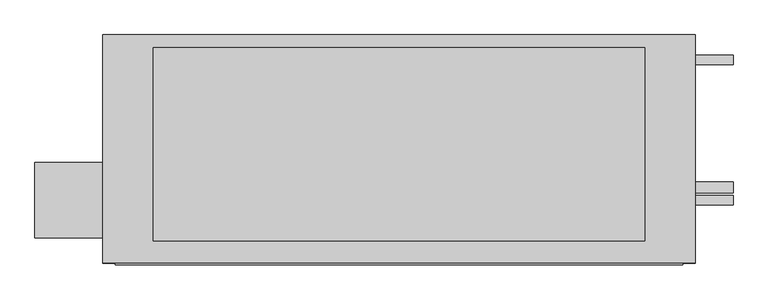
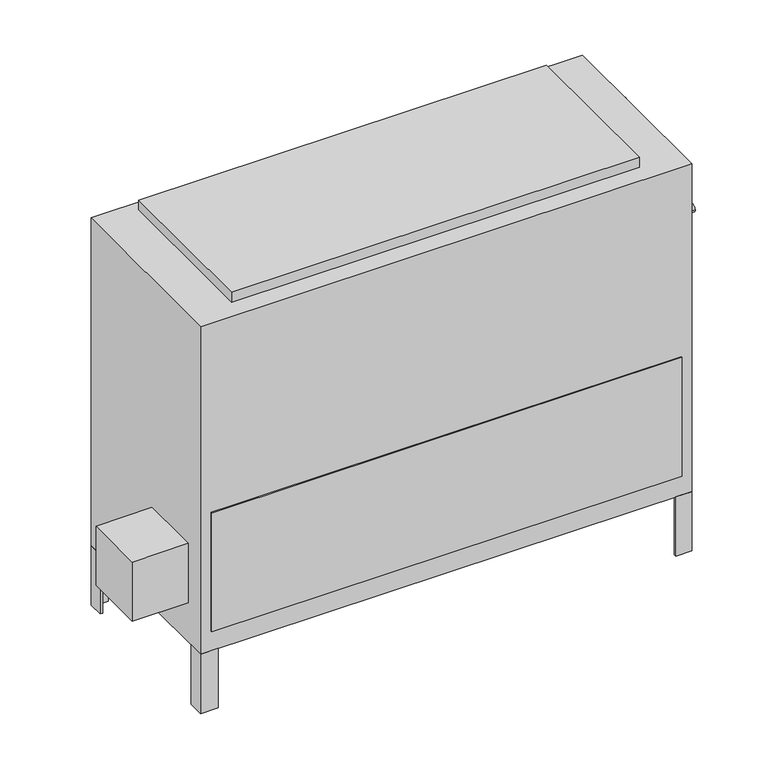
"""IFC4 building model written with IfcOpenShell, lengths in millimetres: proxy geometry, Concealed_High_Capacity_Vertical_Fan_Coil_Unit_-_42DDA_-_CARRIER_-_2-Pipe_Cool-EHeat_RH_2022 : Size 16 - 277v/60Hz/1Ph - 6 Row 12.0kW."""

from ifc_helpers import new_model, si_unit, point, frame, frame_2d, origin, origin_with_axes, place, context, project, spatial, polyline, circle_curve, trimmed, segment, composite_curve, outline, extrude, source, transform, mapped, element, save


def mechanical_equipment_55d8b92a(model_context):
    return source(origin(), model_context, "Body", "SweptSolid", [
        extrude(outline(polyline([(-581.025, -417.5125), (-581.025, -265.1125), (-444.5, -265.1125), (-444.5, -417.5125), (-581.025, -417.5125)])), frame((0.0, 0.0, 101.6), z_axis=(0.0, 0.0, 1.0), x_axis=(1.0, 0.0, 0.0)), (0.0, 0.0, 1.0), 152.4),
        extrude(outline(polyline([(749.3, -46.0375), (742.95, -46.0375), (742.95, -14.2875), (711.2, -14.2875), (711.2, -7.9375), (749.3, -7.9375), (749.3, -46.0375)])), frame((0.0, 0.0, -152.4), z_axis=(0.0, 0.0, 1.0), x_axis=(1.0, 0.0, 0.0)), (0.0, 0.0, 1.0), 152.4),
        extrude(outline(polyline([(-406.4, -7.9375), (-406.4, -14.2875), (-438.15, -14.2875), (-438.15, -46.0375), (-444.5, -46.0375), (-444.5, -7.9375), (-406.4, -7.9375)])), frame((0.0, 0.0, -152.4), z_axis=(0.0, 0.0, 1.0), x_axis=(1.0, 0.0, 0.0)), (0.0, 0.0, 1.0), 152.4),
        extrude(outline(polyline([(711.2, -468.3125), (711.2, -461.9625), (742.95, -461.9625), (742.95, -430.2125), (749.3, -430.2125), (749.3, -468.3125), (711.2, -468.3125)])), frame((0.0, 0.0, -152.4), z_axis=(0.0, 0.0, 1.0), x_axis=(1.0, 0.0, 0.0)), (0.0, 0.0, 1.0), 152.4),
        extrude(outline(polyline([(-444.5, -428.1199163), (-438.15, -428.1199163), (-438.15, -461.9625), (-401.0318533, -461.9625), (-401.0318533, -468.3125), (-444.5, -468.3125), (-444.5, -428.1199163)])), frame((0.0, 0.0, -152.4), z_axis=(0.0, 0.0, 1.0), x_axis=(1.0, 0.0, 0.0)), (0.0, 0.0, 1.0), 152.4),
        extrude(outline(polyline([(647.7, -33.3375), (647.7, -423.8625), (-342.9, -423.8625), (-342.9, -33.3375), (647.7, -33.3375)])), frame((0.0, 0.0, 841.375), z_axis=(0.0, 0.0, 1.0), x_axis=(1.0, 0.0, 0.0)), (0.0, 0.0, 1.0), 25.4),
        extrude(outline(polyline([(723.9, -471.4875), (-419.1, -471.4875), (-419.1, -468.3125), (723.9, -468.3125), (723.9, -471.4875)])), frame((0.0, 0.0, 50.8), z_axis=(0.0, 0.0, 1.0), x_axis=(1.0, 0.0, 0.0)), (0.0, 0.0, 1.0), 304.8),
        extrude(outline(composite_curve([segment(trimmed(circle_curve(frame_2d((-58.7375, 727.075)), 9.525), [point((-49.2125, 727.075))], [point((-68.2625, 727.075))], False, "CARTESIAN"), True, "CONTINUOUS"), segment(trimmed(circle_curve(frame_2d((-58.7375, 727.075)), 9.525), [point((-68.2625, 727.075))], [point((-49.2125, 727.075))], False, "CARTESIAN"), True, "CONTINUOUS")], self_intersect=False)), frame((749.3, 0.0, 0.0), z_axis=(1.0, 0.0, 0.0), x_axis=(0.0, 1.0, 0.0)), (0.0, 0.0, 1.0), 76.2),
        extrude(outline(composite_curve([segment(trimmed(circle_curve(frame_2d((-341.3125, 625.475)), 9.525), [point((-331.7875, 625.475))], [point((-350.8375, 625.475))], False, "CARTESIAN"), True, "CONTINUOUS"), segment(trimmed(circle_curve(frame_2d((-341.3125, 625.475)), 9.525), [point((-350.8375, 625.475))], [point((-331.7875, 625.475))], False, "CARTESIAN"), True, "CONTINUOUS")], self_intersect=False)), frame((749.3, 0.0, 0.0), z_axis=(1.0, 0.0, 0.0), x_axis=(0.0, 1.0, 0.0)), (0.0, 0.0, 1.0), 76.2),
        extrude(outline(composite_curve([segment(trimmed(circle_curve(frame_2d((-315.9125, 536.575)), 11.1125), [point((-304.8, 536.575))], [point((-327.025, 536.575))], False, "CARTESIAN"), True, "CONTINUOUS"), segment(trimmed(circle_curve(frame_2d((-315.9125, 536.575)), 11.1125), [point((-327.025, 536.575))], [point((-304.8, 536.575))], False, "CARTESIAN"), True, "CONTINUOUS")], self_intersect=False)), frame((749.3, 0.0, 0.0), z_axis=(1.0, 0.0, 0.0), x_axis=(0.0, 1.0, 0.0)), (0.0, 0.0, 1.0), 76.2),
        extrude(outline(polyline([(749.3, -7.9375), (749.3, -468.3125), (-444.5, -468.3125), (-444.5, -7.9375), (749.3, -7.9375)])), origin_with_axes(), (0.0, 0.0, 1.0), 841.375),
    ])


if __name__ == "__main__":
    model = new_model("IFC4")
    model_context = context("Model", 3, world=origin())
    ifc_project = project(units=[si_unit("LENGTHUNIT", "METRE", prefix="MILLI")], contexts=[model_context])
    site = spatial("IfcSite", under=ifc_project)
    building = spatial("IfcBuilding", under=site)
    placement = place(None, origin())
    mechanical_equipment_shape = mechanical_equipment_55d8b92a(model_context)
    element("IfcBuildingElementProxy", 1, Name="Concealed_High_Capacity_Vertical_Fan_Coil_Unit_-_42DDA_-_CARRIER_-_2-Pipe_Cool-EHeat_RH_2022 : Size 16 - 277v/60Hz/1Ph - 6 Row 12.0kW", ObjectType="Concealed_High_Capacity_Vertical_Fan_Coil_Unit_-_42DDA_-_CARRIER_-_2-Pipe_Cool-EHeat_RH_2022 : Size 16 - 277v/60Hz/1Ph - 6 Row 12.0kW", at=placement, inside=building, context=model_context, shape_type="MappedRepresentation", body=[
        mapped(mechanical_equipment_shape, transform((0.0, 0.0, 0.0), x_axis=(1.0, 0.0, 0.0), y_axis=(0.0, 1.0, 0.0), z_axis=(0.0, 0.0, 1.0))),
    ])
    save(model, "model.ifc")
